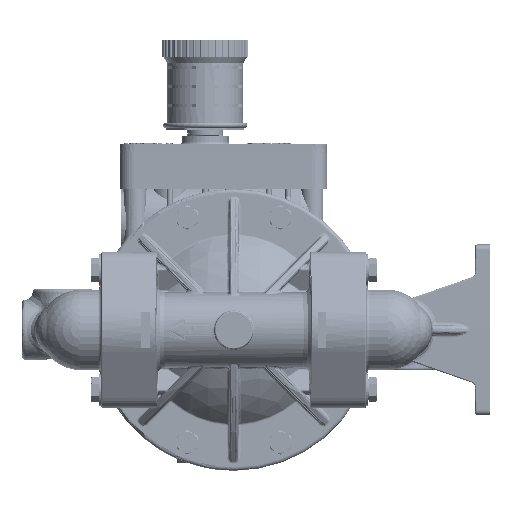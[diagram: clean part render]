
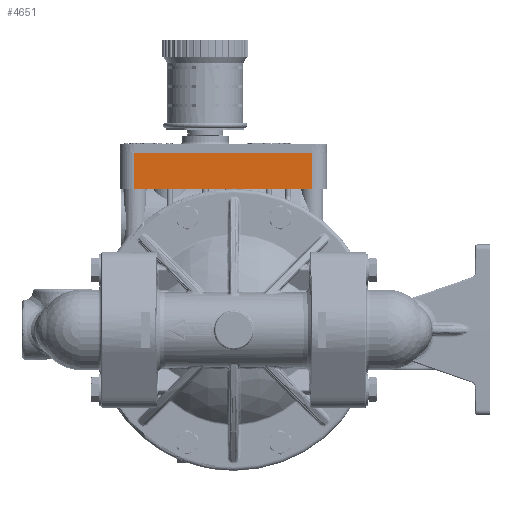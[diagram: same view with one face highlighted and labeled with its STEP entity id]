
A CAD part, left-side view. The second image highlights one B-rep face of the part: STEP entity #4651.
In plain terms, the highlighted planar face has unit normal (-1, 0, 0).
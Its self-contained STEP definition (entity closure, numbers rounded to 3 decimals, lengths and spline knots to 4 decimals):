
#4651 = ADVANCED_FACE ( 'NONE', ( #197048 ), #239511, .F. ) ;
#10947 = ORIENTED_EDGE ( 'NONE', *, *, #123845, .T. ) ;
#42127 = DIRECTION ( 'NONE',  ( 0., 1., 0. ) ) ;
#47514 = VERTEX_POINT ( 'NONE', #85298 ) ;
#53631 = CARTESIAN_POINT ( 'NONE',  ( -1.0424, -1.835, 4.146 ) ) ;
#54087 = EDGE_CURVE ( 'NONE', #287957, #162362, #65502, .T. ) ;
#63571 = CARTESIAN_POINT ( 'NONE',  ( -1.0424, 2.33, 3.296 ) ) ;
#65502 = LINE ( 'NONE', #110870, #96907 ) ;
#76506 = CARTESIAN_POINT ( 'NONE',  ( -1.0424, 2.33, 3.296 ) ) ;
#85298 = CARTESIAN_POINT ( 'NONE',  ( -1.0424, 2.33, 4.146 ) ) ;
#96907 = VECTOR ( 'NONE', #42127, 39.3701 ) ;
#102783 = LINE ( 'NONE', #76506, #179342 ) ;
#103683 = ORIENTED_EDGE ( 'NONE', *, *, #151616, .T. ) ;
#110870 = CARTESIAN_POINT ( 'NONE',  ( -1.0424, -1.835, 3.296 ) ) ;
#115075 = VECTOR ( 'NONE', #218811, 39.3701 ) ;
#123845 = EDGE_CURVE ( 'NONE', #166797, #47514, #138382, .T. ) ;
#138382 = LINE ( 'NONE', #202751, #219521 ) ;
#151616 = EDGE_CURVE ( 'NONE', #287957, #166797, #198324, .T. ) ;
#155556 = AXIS2_PLACEMENT_3D ( 'NONE', #195623, #175114, #242405 ) ;
#162362 = VERTEX_POINT ( 'NONE', #63571 ) ;
#166797 = VERTEX_POINT ( 'NONE', #53631 ) ;
#175114 = DIRECTION ( 'NONE',  ( 1., 0., 0. ) ) ;
#175659 = EDGE_CURVE ( 'NONE', #162362, #47514, #102783, .T. ) ;
#179342 = VECTOR ( 'NONE', #233056, 39.3701 ) ;
#195623 = CARTESIAN_POINT ( 'NONE',  ( -1.0424, -1.835, 3.296 ) ) ;
#195990 = ORIENTED_EDGE ( 'NONE', *, *, #175659, .F. ) ;
#197048 = FACE_OUTER_BOUND ( 'NONE', #235360, .T. ) ;
#198324 = LINE ( 'NONE', #286053, #115075 ) ;
#202751 = CARTESIAN_POINT ( 'NONE',  ( -1.0424, -1.835, 4.146 ) ) ;
#218811 = DIRECTION ( 'NONE',  ( 0., 0., 1. ) ) ;
#219521 = VECTOR ( 'NONE', #224690, 39.3701 ) ;
#224690 = DIRECTION ( 'NONE',  ( 0., 1., 0. ) ) ;
#230634 = CARTESIAN_POINT ( 'NONE',  ( -1.0424, -1.835, 3.296 ) ) ;
#233056 = DIRECTION ( 'NONE',  ( 0., 0., 1. ) ) ;
#235360 = EDGE_LOOP ( 'NONE', ( #10947, #195990, #241536, #103683 ) ) ;
#239511 = PLANE ( 'NONE',  #155556 ) ;
#241536 = ORIENTED_EDGE ( 'NONE', *, *, #54087, .F. ) ;
#242405 = DIRECTION ( 'NONE',  ( 0., 0., -1. ) ) ;
#286053 = CARTESIAN_POINT ( 'NONE',  ( -1.0424, -1.835, 3.296 ) ) ;
#287957 = VERTEX_POINT ( 'NONE', #230634 ) ;
